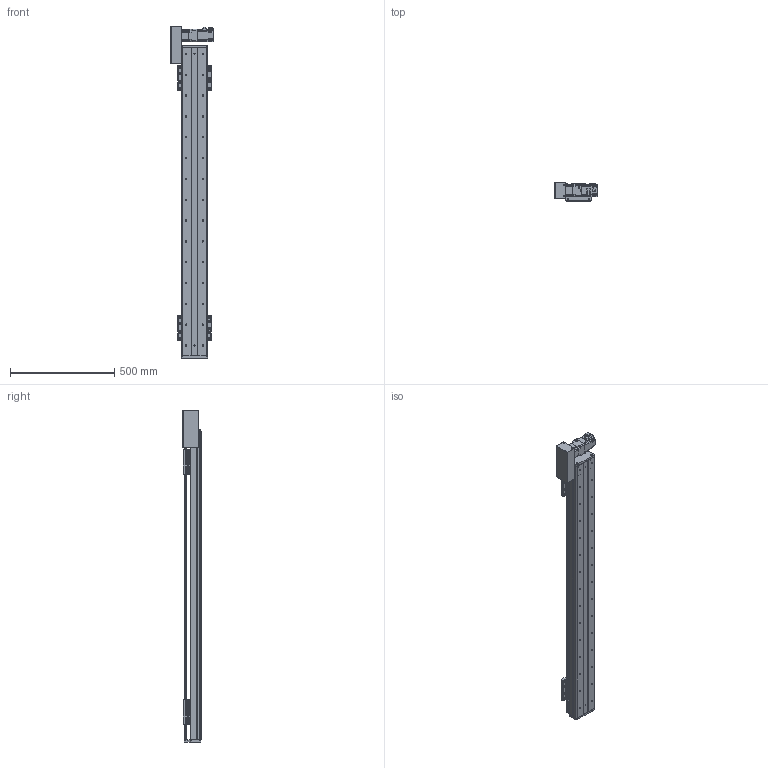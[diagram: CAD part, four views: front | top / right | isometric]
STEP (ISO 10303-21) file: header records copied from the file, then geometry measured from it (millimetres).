
FILE_DESCRIPTION(/* description */ (''),/* implementation_level */ '2;1');
FILE_NAME(/* name */ 'C:\Users\PC\Desktop\3D도면\STEP\DSB125-L2G-W1200-R.stp',/* time_stamp */ '2018-06-13T13:48:48+09:00',/* author */ ('PC'),/* organization */ (''),/* preprocessor_version */ 'ST-DEVELOPER v16.5',/* originating_system */ 'Autodesk Inventor 2017',/* authorisation */ '');
FILE_SCHEMA (('AUTOMOTIVE_DESIGN { 1 0 10303 214 3 1 1 }'));
Length unit declared in the file: millimetre
Products named in the file (12): DSB125-L-300ST; DSR125-BASE(S-TYPE); DSR125-REAR COVER-R01(170203); DSR125-REAR COVER-R01(170203)_1; DSR125-UP COVER-R01(170203); DSR125-TABLE(MSA15X); hg-kr23_; ab0601-p0401200402; 13-BELT COVER; DSR126-SENSOR DOG; pm-y65_step; SENSOR BRACKET(EE-SX674A)
Assembly tree (16 placements, depth 2):
  DSB125-L-300ST
    DSR125-BASE(S-TYPE)
    DSR125-REAR COVER-R01(170203)
    DSR125-REAR COVER-R01(170203)_1
    DSR125-UP COVER-R01(170203)
    DSR125-TABLE(MSA15X)  x2
    hg-kr23_
    ab0601-p0401200402
    13-BELT COVER
    DSR126-SENSOR DOG
    pm-y65_step  x3
    SENSOR BRACKET(EE-SX674A)  x3
Bounding box: 202.1 x 88 x 1594 mm (x, y, z)
Volume: 5380499 mm3; surface area: 1549538 mm2
Topology: 17 solids, 22 shells, 1681 faces, 4551 edges, 3000 vertices
Faces by surface type: plane 908, cylinder 641, cone 120, sphere 8, torus 4
Full cylindrical faces by diameter (mm): 2.459 x20, 3.242 x16, 3.5 x6, 4 x1, 4.134 x16, 4.2 x4, 4.3 x1, 4.5 x50, 4.917 x20, 5 x27, 5.3 x1, 5.5 x4, 5.6 x8, 5.8 x4, 5.9 x8, 6 x4, 6.6 x22, 6.647 x30, 7.5 x32, 8.5 x8, 8.7 x1, 11 x22, 14 x1, 16 x2, 17 x1, 20 x1, 47 x1, 50 x3
Entity records: 35750 total; most frequent: CARTESIAN_POINT 6559, DIRECTION 6204, ORIENTED_EDGE 5518, EDGE_CURVE 2764, AXIS2_PLACEMENT_3D 2290, VERTEX_POINT 1973, EDGE_LOOP 1713, LINE 1624
